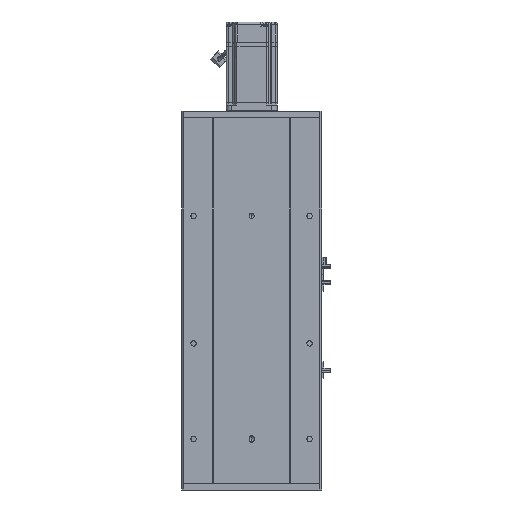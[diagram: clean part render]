
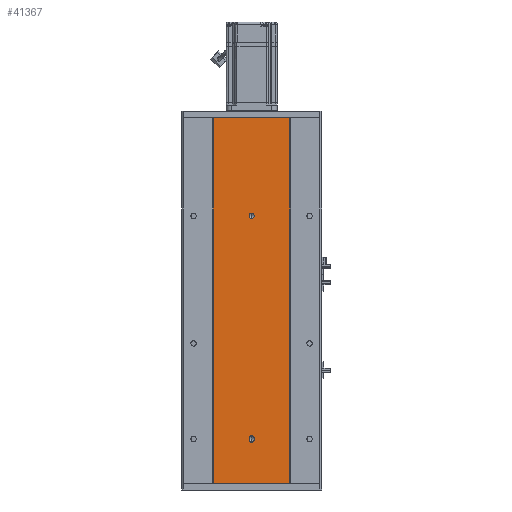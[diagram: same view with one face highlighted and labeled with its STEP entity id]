
A CAD part, front view. The second image highlights one B-rep face of the part: STEP entity #41367.
In plain terms, the highlighted planar face has unit normal (0, -1, 0).
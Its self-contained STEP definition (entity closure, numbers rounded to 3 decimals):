
#342 = CARTESIAN_POINT ( 'NONE',  ( 0., 0., 64.5 ) ) ;
#814 = CARTESIAN_POINT ( 'NONE',  ( -60., 0., 574. ) ) ;
#912 = DIRECTION ( 'NONE',  ( 0., 0., 1. ) ) ;
#1478 = CARTESIAN_POINT ( 'NONE',  ( 0., 0., 71.5 ) ) ;
#2490 = CARTESIAN_POINT ( 'NONE',  ( 4., 0., 71.5 ) ) ;
#2894 = ORIENTED_EDGE ( 'NONE', *, *, #32082, .F. ) ;
#2939 = EDGE_CURVE ( 'NONE', #50082, #46650, #50303, .T. ) ;
#3004 = EDGE_CURVE ( 'NONE', #25450, #29684, #25935, .T. ) ;
#3562 = CIRCLE ( 'NONE', #34313, 4. ) ;
#3602 = DIRECTION ( 'NONE',  ( 0., 0., -1. ) ) ;
#6142 = DIRECTION ( 'NONE',  ( 1., 0., 0. ) ) ;
#7162 = DIRECTION ( 'NONE',  ( 0., -1., 0. ) ) ;
#7237 = DIRECTION ( 'NONE',  ( 0., 0., -1. ) ) ;
#7314 = DIRECTION ( 'NONE',  ( 0., 0., 1. ) ) ;
#8116 = EDGE_CURVE ( 'NONE', #25918, #35339, #3562, .T. ) ;
#8612 = VERTEX_POINT ( 'NONE', #814 ) ;
#8978 = AXIS2_PLACEMENT_3D ( 'NONE', #57689, #57466, #27612 ) ;
#9495 = CARTESIAN_POINT ( 'NONE',  ( -60., 0., 574. ) ) ;
#10212 = EDGE_CURVE ( 'NONE', #8612, #61939, #12167, .T. ) ;
#10948 = EDGE_CURVE ( 'NONE', #61939, #46650, #45217, .T. ) ;
#12167 = LINE ( 'NONE', #17252, #33406 ) ;
#12252 = ORIENTED_EDGE ( 'NONE', *, *, #10212, .F. ) ;
#13234 = DIRECTION ( 'NONE',  ( 0., -1., 0. ) ) ;
#13352 = EDGE_LOOP ( 'NONE', ( #16724, #35791, #12252, #39479 ) ) ;
#15040 = VERTEX_POINT ( 'NONE', #29123 ) ;
#16724 = ORIENTED_EDGE ( 'NONE', *, *, #2939, .T. ) ;
#17252 = CARTESIAN_POINT ( 'NONE',  ( -60., 0., 574. ) ) ;
#17315 = DIRECTION ( 'NONE',  ( 0., -1., 0. ) ) ;
#17734 = CARTESIAN_POINT ( 'NONE',  ( 0., 0., 68.5 ) ) ;
#18274 = CARTESIAN_POINT ( 'NONE',  ( 0., 0., 420. ) ) ;
#19911 = CIRCLE ( 'NONE', #28013, 4. ) ;
#20957 = EDGE_CURVE ( 'NONE', #38792, #15040, #55618, .T. ) ;
#21593 = ORIENTED_EDGE ( 'NONE', *, *, #56246, .F. ) ;
#21754 = DIRECTION ( 'NONE',  ( 0., -1., 0. ) ) ;
#23620 = VECTOR ( 'NONE', #6142, 1000. ) ;
#23899 = EDGE_CURVE ( 'NONE', #35339, #25918, #19911, .T. ) ;
#23968 = FACE_BOUND ( 'NONE', #37040, .T. ) ;
#24937 = EDGE_LOOP ( 'NONE', ( #29037, #2894, #21593, #26923, #52093 ) ) ;
#25171 = CARTESIAN_POINT ( 'NONE',  ( 60., 0., 574. ) ) ;
#25450 = VERTEX_POINT ( 'NONE', #342 ) ;
#25918 = VERTEX_POINT ( 'NONE', #28359 ) ;
#25935 = CIRCLE ( 'NONE', #8978, 4. ) ;
#25993 = CARTESIAN_POINT ( 'NONE',  ( 0., 0., 424. ) ) ;
#26081 = CARTESIAN_POINT ( 'NONE',  ( 4., 0., 71.5 ) ) ;
#26269 = DIRECTION ( 'NONE',  ( 1., 0., 0. ) ) ;
#26923 = ORIENTED_EDGE ( 'NONE', *, *, #3004, .F. ) ;
#27053 = AXIS2_PLACEMENT_3D ( 'NONE', #9495, #44586, #912 ) ;
#27612 = DIRECTION ( 'NONE',  ( 0., 0., -1. ) ) ;
#27944 = DIRECTION ( 'NONE',  ( 0., 0., -1. ) ) ;
#28013 = AXIS2_PLACEMENT_3D ( 'NONE', #45274, #21754, #35589 ) ;
#28237 = VERTEX_POINT ( 'NONE', #26081 ) ;
#28359 = CARTESIAN_POINT ( 'NONE',  ( 0., 0., 416. ) ) ;
#28924 = VECTOR ( 'NONE', #30267, 1000. ) ;
#29037 = ORIENTED_EDGE ( 'NONE', *, *, #20957, .F. ) ;
#29123 = CARTESIAN_POINT ( 'NONE',  ( -4., 0., 68.5 ) ) ;
#29684 = VERTEX_POINT ( 'NONE', #49590 ) ;
#30267 = DIRECTION ( 'NONE',  ( 0., 0., -1. ) ) ;
#32082 = EDGE_CURVE ( 'NONE', #28237, #38792, #43831, .T. ) ;
#32326 = ORIENTED_EDGE ( 'NONE', *, *, #23899, .F. ) ;
#33406 = VECTOR ( 'NONE', #26269, 1000. ) ;
#34313 = AXIS2_PLACEMENT_3D ( 'NONE', #18274, #13234, #27944 ) ;
#35339 = VERTEX_POINT ( 'NONE', #25993 ) ;
#35589 = DIRECTION ( 'NONE',  ( 0., 0., -1. ) ) ;
#35791 = ORIENTED_EDGE ( 'NONE', *, *, #10948, .F. ) ;
#37040 = EDGE_LOOP ( 'NONE', ( #53314, #32326 ) ) ;
#37849 = DIRECTION ( 'NONE',  ( 0., 0., -1. ) ) ;
#38792 = VERTEX_POINT ( 'NONE', #63029 ) ;
#39095 = CARTESIAN_POINT ( 'NONE',  ( 60., 0., 574. ) ) ;
#39272 = AXIS2_PLACEMENT_3D ( 'NONE', #1478, #7162, #42059 ) ;
#39479 = ORIENTED_EDGE ( 'NONE', *, *, #52915, .T. ) ;
#41218 = FACE_BOUND ( 'NONE', #24937, .T. ) ;
#41367 = ADVANCED_FACE ( 'NONE', ( #23968, #41218, #44392 ), #64308, .F. ) ;
#42059 = DIRECTION ( 'NONE',  ( 0., 0., -1. ) ) ;
#43831 = CIRCLE ( 'NONE', #39272, 4. ) ;
#44231 = LINE ( 'NONE', #53504, #56787 ) ;
#44392 = FACE_OUTER_BOUND ( 'NONE', #13352, .T. ) ;
#44586 = DIRECTION ( 'NONE',  ( 0., 1., 0. ) ) ;
#45217 = LINE ( 'NONE', #39095, #64852 ) ;
#45274 = CARTESIAN_POINT ( 'NONE',  ( 0., 0., 420. ) ) ;
#46343 = EDGE_CURVE ( 'NONE', #15040, #25450, #54835, .T. ) ;
#46650 = VERTEX_POINT ( 'NONE', #60924 ) ;
#48331 = AXIS2_PLACEMENT_3D ( 'NONE', #17734, #17315, #7237 ) ;
#49590 = CARTESIAN_POINT ( 'NONE',  ( 4., 0., 68.5 ) ) ;
#50082 = VERTEX_POINT ( 'NONE', #61596 ) ;
#50303 = LINE ( 'NONE', #61429, #23620 ) ;
#50624 = LINE ( 'NONE', #2490, #54565 ) ;
#52093 = ORIENTED_EDGE ( 'NONE', *, *, #46343, .F. ) ;
#52915 = EDGE_CURVE ( 'NONE', #8612, #50082, #44231, .T. ) ;
#53314 = ORIENTED_EDGE ( 'NONE', *, *, #8116, .F. ) ;
#53504 = CARTESIAN_POINT ( 'NONE',  ( -60., 0., 574. ) ) ;
#54565 = VECTOR ( 'NONE', #7314, 1000. ) ;
#54835 = CIRCLE ( 'NONE', #48331, 4. ) ;
#55618 = LINE ( 'NONE', #60502, #28924 ) ;
#56246 = EDGE_CURVE ( 'NONE', #29684, #28237, #50624, .T. ) ;
#56787 = VECTOR ( 'NONE', #37849, 1000. ) ;
#57466 = DIRECTION ( 'NONE',  ( 0., -1., 0. ) ) ;
#57689 = CARTESIAN_POINT ( 'NONE',  ( 0., 0., 68.5 ) ) ;
#60502 = CARTESIAN_POINT ( 'NONE',  ( -4., 0., 71.5 ) ) ;
#60924 = CARTESIAN_POINT ( 'NONE',  ( 60., 0., 0. ) ) ;
#61429 = CARTESIAN_POINT ( 'NONE',  ( -60., 0., 0. ) ) ;
#61596 = CARTESIAN_POINT ( 'NONE',  ( -60., 0., 0. ) ) ;
#61939 = VERTEX_POINT ( 'NONE', #25171 ) ;
#63029 = CARTESIAN_POINT ( 'NONE',  ( -4., 0., 71.5 ) ) ;
#64308 = PLANE ( 'NONE',  #27053 ) ;
#64852 = VECTOR ( 'NONE', #3602, 1000. ) ;
